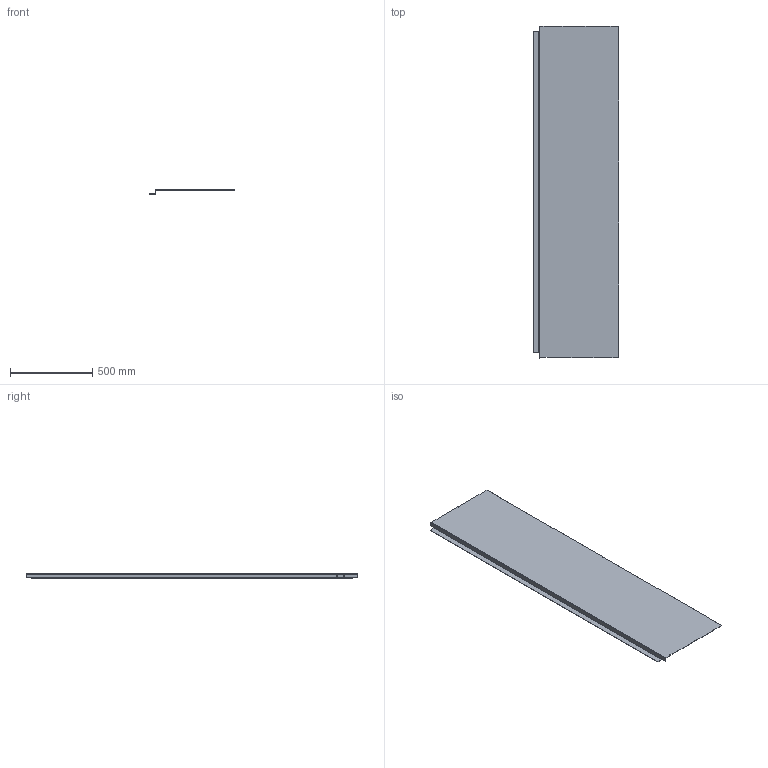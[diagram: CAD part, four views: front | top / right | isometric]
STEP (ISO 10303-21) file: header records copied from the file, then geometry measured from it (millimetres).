
FILE_DESCRIPTION (( 'STEP AP203' ), '1' );
FILE_NAME ('ORW-72.24.10.008 Ñòåíêà ïðàâàÿ.STEP', '2025-12-17T13:00:40', ( 'Àíäðåé' ), ( '' ), 'SwSTEP 2.0', 'SolidWorks 2025', '' );
FILE_SCHEMA (( 'CONFIG_CONTROL_DESIGN' ));
Length unit declared in the file: millimetre
Products named in the file (1): ORW-72.24.10.008 Стенка правая
Bounding box: 518.5 x 2015 x 27 mm (x, y, z)
Volume: 2174093 mm3; surface area: 2184545.2 mm2
Topology: 1 solids, 1 shells, 76 faces, 208 edges, 134 vertices
Faces by surface type: plane 70, cylinder 6
Full cylindrical faces by diameter (mm): 6.4 x2
Entity records: 2403 total; most frequent: CARTESIAN_POINT 419, ORIENTED_EDGE 408, DIRECTION 364, EDGE_CURVE 204, LINE 186, VECTOR 186, VERTEX_POINT 132, AXIS2_PLACEMENT_3D 89
